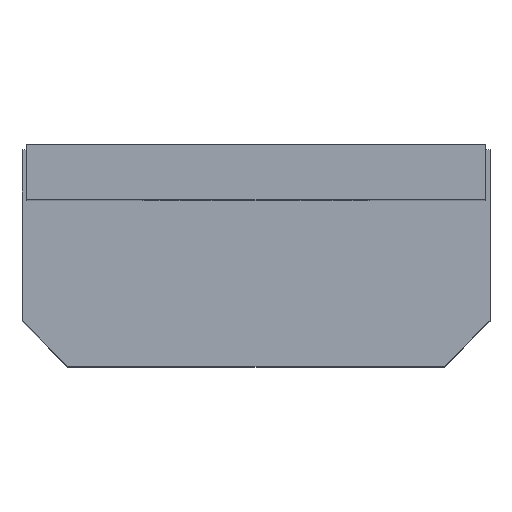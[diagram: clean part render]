
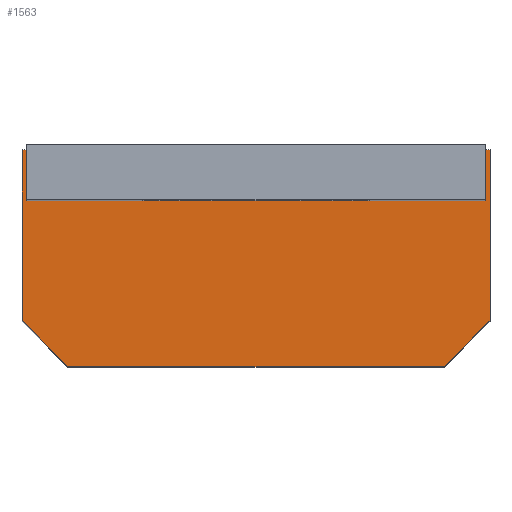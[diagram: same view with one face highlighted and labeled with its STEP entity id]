
A CAD part, top view. The second image highlights one B-rep face of the part: STEP entity #1563.
In plain terms, the highlighted planar face has unit normal (0, 0, 1).
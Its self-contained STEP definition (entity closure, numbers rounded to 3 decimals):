
#1290=CARTESIAN_POINT('',(6.706,-1.892,10.744));
#1289=VERTEX_POINT('',#1290);
#1300=CARTESIAN_POINT('',(-1.626,-1.892,10.744));
#1299=VERTEX_POINT('',#1300);
#1298=EDGE_CURVE('',#1299,#1289,#1303,.T.);
#1303=LINE('',#1300,#1305);
#1305=VECTOR('',#1306,8.331);
#1306=DIRECTION('',(1.0,0.0,0.0));
#1339=CARTESIAN_POINT('',(7.722,-0.876,10.744));
#1338=VERTEX_POINT('',#1339);
#1347=EDGE_CURVE('',#1289,#1338,#1352,.T.);
#1352=LINE('',#1290,#1354);
#1354=VECTOR('',#1355,1.437);
#1355=DIRECTION('',(0.707,0.707,0.0));
#1388=CARTESIAN_POINT('',(7.722,2.908,10.744));
#1387=VERTEX_POINT('',#1388);
#1396=EDGE_CURVE('',#1338,#1387,#1401,.T.);
#1401=LINE('',#1339,#1403);
#1403=VECTOR('',#1404,3.785);
#1404=DIRECTION('',(0.0,1.0,0.0));
#1437=CARTESIAN_POINT('',(-2.642,2.908,10.744));
#1436=VERTEX_POINT('',#1437);
#1445=EDGE_CURVE('',#1387,#1436,#1450,.T.);
#1450=LINE('',#1388,#1452);
#1452=VECTOR('',#1453,10.363);
#1453=DIRECTION('',(-1.0,0.0,0.0));
#1486=CARTESIAN_POINT('',(-2.642,-0.876,10.744));
#1485=VERTEX_POINT('',#1486);
#1494=EDGE_CURVE('',#1436,#1485,#1499,.T.);
#1499=LINE('',#1437,#1501);
#1501=VECTOR('',#1502,3.785);
#1502=DIRECTION('',(0.0,-1.0,0.0));
#1543=EDGE_CURVE('',#1485,#1299,#1548,.T.);
#1548=LINE('',#1486,#1550);
#1550=VECTOR('',#1551,1.437);
#1551=DIRECTION('',(0.707,-0.707,0.0));
#1563=ADVANCED_FACE('',(#1569),#1564,.T.);
#1564=PLANE('',#1565);
#1565=AXIS2_PLACEMENT_3D('',#1566,#1567,#1568);
#1566=CARTESIAN_POINT('',(7.722,2.908,10.744));
#1567=DIRECTION('',(0.0,0.0,1.0));
#1568=DIRECTION('',(0.,1.,0.));
#1569=FACE_OUTER_BOUND('',#1570,.T.);
#1570=EDGE_LOOP('',(#1571,#1581,#1591,#1601,#1611,#1621));
#1571=ORIENTED_EDGE('',*,*,#1445,.T.);
#1581=ORIENTED_EDGE('',*,*,#1494,.T.);
#1591=ORIENTED_EDGE('',*,*,#1543,.T.);
#1601=ORIENTED_EDGE('',*,*,#1298,.T.);
#1611=ORIENTED_EDGE('',*,*,#1347,.T.);
#1621=ORIENTED_EDGE('',*,*,#1396,.T.);
